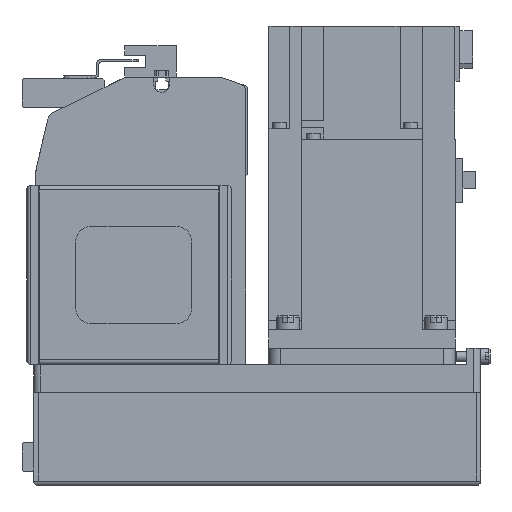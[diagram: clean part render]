
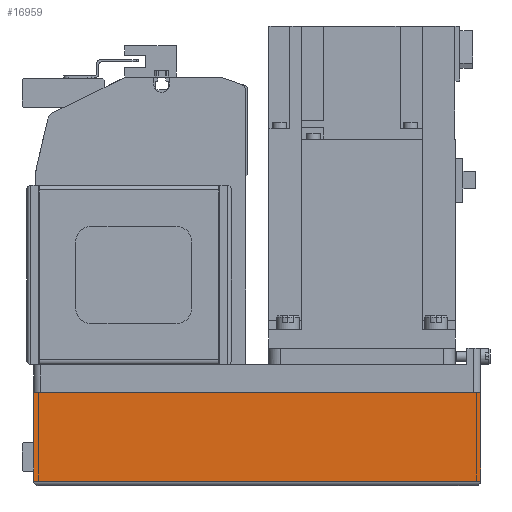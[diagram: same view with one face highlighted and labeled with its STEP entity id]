
A CAD part, left-side view. The second image highlights one B-rep face of the part: STEP entity #16959.
In plain terms, the highlighted planar face has unit normal (-1, 0, 0) as drawn and (0, 1, 0) by its records, which use the part's own axes.
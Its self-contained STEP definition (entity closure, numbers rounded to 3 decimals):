
#2676=ORIENTED_EDGE('',*,*,#6867,.F.);
#2677=ORIENTED_EDGE('',*,*,#6907,.F.);
#2678=ORIENTED_EDGE('',*,*,#6844,.T.);
#2679=ORIENTED_EDGE('',*,*,#6857,.T.);
#6844=EDGE_CURVE('',#9103,#9106,#10842,.T.);
#6857=EDGE_CURVE('',#9106,#9118,#10855,.T.);
#6867=EDGE_CURVE('',#9126,#9118,#10865,.T.);
#6907=EDGE_CURVE('',#9103,#9126,#10883,.T.);
#9103=VERTEX_POINT('',#26080);
#9106=VERTEX_POINT('',#26085);
#9118=VERTEX_POINT('',#26113);
#9126=VERTEX_POINT('',#26133);
#10842=LINE('',#26086,#12448);
#10855=LINE('',#26114,#12461);
#10865=LINE('',#26134,#12471);
#10883=LINE('',#26204,#12489);
#12448=VECTOR('',#20874,1000.);
#12461=VECTOR('',#20893,1000.);
#12471=VECTOR('',#20907,1000.);
#12489=VECTOR('',#21001,1000.);
#13911=EDGE_LOOP('',(#2676,#2677,#2678,#2679));
#15163=FACE_BOUND('',#13911,.T.);
#16248=PLANE('',#18186);
#16959=ADVANCED_FACE('',(#15163),#16248,.T.);
#18186=AXIS2_PLACEMENT_3D('',#26203,#20999,#21000);
#20874=DIRECTION('',(0.,0.,1.));
#20893=DIRECTION('',(1.,0.,0.));
#20907=DIRECTION('',(0.,0.,1.));
#20999=DIRECTION('',(0.,1.,0.));
#21000=DIRECTION('',(0.,0.,1.));
#21001=DIRECTION('',(1.,0.,0.));
#26080=CARTESIAN_POINT('',(-192.,40.,-50.));
#26085=CARTESIAN_POINT('',(-192.,40.,-12.1));
#26086=CARTESIAN_POINT('',(-192.,40.,-50.));
#26113=CARTESIAN_POINT('',(0.,40.,-12.1));
#26114=CARTESIAN_POINT('',(-192.,40.,-12.1));
#26133=CARTESIAN_POINT('',(0.,40.,-50.));
#26134=CARTESIAN_POINT('',(0.,40.,-50.));
#26203=CARTESIAN_POINT('',(-192.,40.,-50.));
#26204=CARTESIAN_POINT('',(-192.,40.,-50.));
